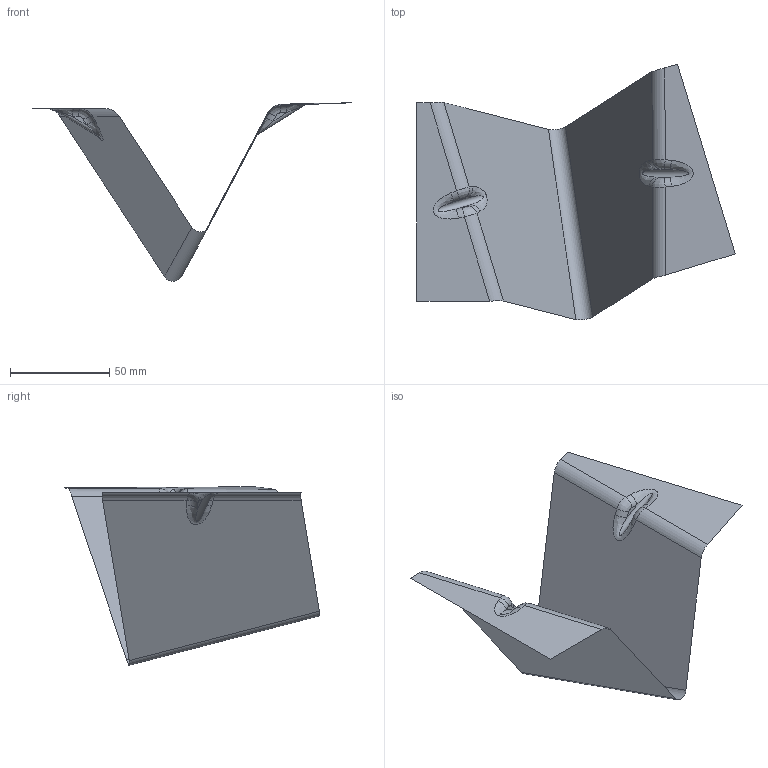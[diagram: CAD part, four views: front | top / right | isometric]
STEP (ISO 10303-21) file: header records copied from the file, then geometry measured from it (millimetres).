
FILE_DESCRIPTION(('CATIA V5 STEP Exchange'),'2;1');
FILE_NAME('C:\_Andres\UNIVERSIDAD\IQS\ASIGNATURAS\DAO\EXF\EXF-16172c\2inicio\Lopez_Triquell_Ej03_v17.stp','2017-03-05T19:32:18+00:00',('none'),('none'),'CATIA Version 5-6 Release 2014 SP1 HF18','CATIA V5 STEP AP203','none');
FILE_SCHEMA(('CONFIG_CONTROL_DESIGN'));
Length unit declared in the file: millimetre
Products named in the file (1): Lopez_Triquell_Ej03_v17
Bounding box: 160.39 x 128.84 x 89.9 mm (x, y, z)
Surface area: 23719.1 mm2 (no closed solid volume)
Topology: 0 solids, 1 shells, 31 faces, 78 edges, 48 vertices
Faces by surface type: cylinder 15, plane 8, bspline 8
Entity records: 2449 total; most frequent: CARTESIAN_POINT 1776, ORIENTED_EDGE 140, DIRECTION 90, EDGE_CURVE 78, VERTEX_POINT 48, VECTOR 40, LINE 40, ADVANCED_FACE 31
